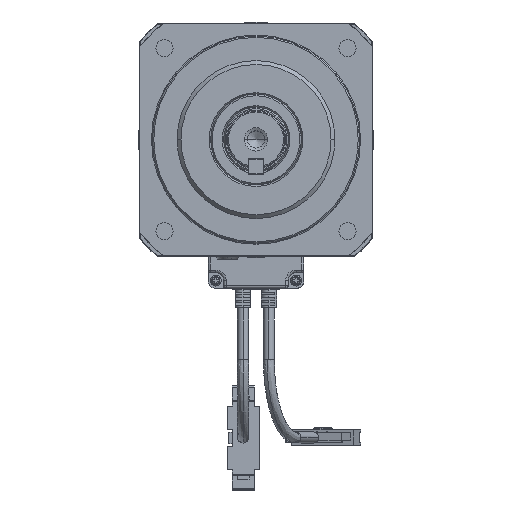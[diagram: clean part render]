
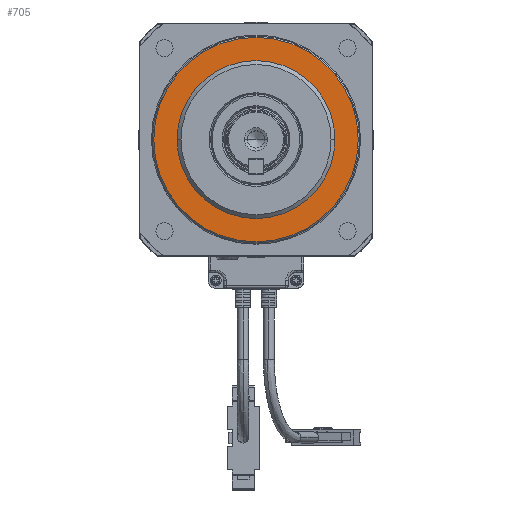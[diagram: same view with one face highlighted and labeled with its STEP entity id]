
A CAD part, top view. The second image highlights one B-rep face of the part: STEP entity #705.
In plain terms, the highlighted planar face has unit normal (0, 0, 1).
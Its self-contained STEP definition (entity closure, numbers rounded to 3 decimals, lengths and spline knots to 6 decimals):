
#705 = ADVANCED_FACE ( 'NONE', ( #7115, #7130 ), #8206, .T. ) ;
#3251 = AXIS2_PLACEMENT_3D ( 'NONE', #8203, #8208, #8209 ) ;
#6411 = EDGE_LOOP ( 'NONE', ( #11411, #11409 ) ) ;
#6432 = EDGE_LOOP ( 'NONE', ( #11541, #11408 ) ) ;
#7115 = FACE_OUTER_BOUND ( 'NONE', #6411, .T. ) ;
#7130 = FACE_BOUND ( 'NONE', #6432, .T. ) ;
#8203 = CARTESIAN_POINT ( 'NONE',  ( -0.04345, -0.04345, 0.009 ) ) ;
#8206 = PLANE ( 'NONE',  #3251 ) ;
#8208 = DIRECTION ( 'NONE',  ( 0., 0., 1. ) ) ;
#8209 = DIRECTION ( 'NONE',  ( 1., 0., 0. ) ) ;
#11408 = ORIENTED_EDGE ( 'NONE', *, *, #40193, .T. ) ;
#11409 = ORIENTED_EDGE ( 'NONE', *, *, #40871, .T. ) ;
#11411 = ORIENTED_EDGE ( 'NONE', *, *, #40192, .T. ) ;
#11541 = ORIENTED_EDGE ( 'NONE', *, *, #40296, .T. ) ;
#15320 = AXIS2_PLACEMENT_3D ( 'NONE', #28694, #28695, #28696 ) ;
#15321 = AXIS2_PLACEMENT_3D ( 'NONE', #28697, #28698, #28699 ) ;
#15347 = AXIS2_PLACEMENT_3D ( 'NONE', #30136, #30137, #30138 ) ;
#15498 = AXIS2_PLACEMENT_3D ( 'NONE', #32997, #32999, #33001 ) ;
#22250 = CIRCLE ( 'NONE', #15321, 0.0305 ) ;
#22253 = CIRCLE ( 'NONE', #15320, 0.0395 ) ;
#28694 = CARTESIAN_POINT ( 'NONE',  ( 0., 0., 0.009 ) ) ;
#28695 = DIRECTION ( 'NONE',  ( 0., 0., 1. ) ) ;
#28696 = DIRECTION ( 'NONE',  ( 1., 0., 0. ) ) ;
#28697 = CARTESIAN_POINT ( 'NONE',  ( 0., 0., 0.009 ) ) ;
#28698 = DIRECTION ( 'NONE',  ( 0., 0., -1. ) ) ;
#28699 = DIRECTION ( 'NONE',  ( -1., 0., 0. ) ) ;
#29086 = CIRCLE ( 'NONE', #15347, 0.0305 ) ;
#29921 = CIRCLE ( 'NONE', #15498, 0.0395 ) ;
#30136 = CARTESIAN_POINT ( 'NONE',  ( 0., 0., 0.009 ) ) ;
#30137 = DIRECTION ( 'NONE',  ( 0., 0., -1. ) ) ;
#30138 = DIRECTION ( 'NONE',  ( -1., 0., 0. ) ) ;
#32997 = CARTESIAN_POINT ( 'NONE',  ( 0., 0., 0.009 ) ) ;
#32999 = DIRECTION ( 'NONE',  ( 0., 0., 1. ) ) ;
#33001 = DIRECTION ( 'NONE',  ( 1., 0., 0. ) ) ;
#34637 = CARTESIAN_POINT ( 'NONE',  ( 0.0395, 0., 0.009 ) ) ;
#34643 = CARTESIAN_POINT ( 'NONE',  ( -0.0395, 0., 0.009 ) ) ;
#35147 = CARTESIAN_POINT ( 'NONE',  ( -0.0305, 0., 0.009 ) ) ;
#35148 = CARTESIAN_POINT ( 'NONE',  ( 0.0305, 0., 0.009 ) ) ;
#40192 = EDGE_CURVE ( 'NONE', #41462, #41457, #22253, .T. ) ;
#40193 = EDGE_CURVE ( 'NONE', #42047, #42045, #22250, .T. ) ;
#40296 = EDGE_CURVE ( 'NONE', #42045, #42047, #29086, .T. ) ;
#40871 = EDGE_CURVE ( 'NONE', #41457, #41462, #29921, .T. ) ;
#41457 = VERTEX_POINT ( 'NONE', #34637 ) ;
#41462 = VERTEX_POINT ( 'NONE', #34643 ) ;
#42045 = VERTEX_POINT ( 'NONE', #35147 ) ;
#42047 = VERTEX_POINT ( 'NONE', #35148 ) ;
